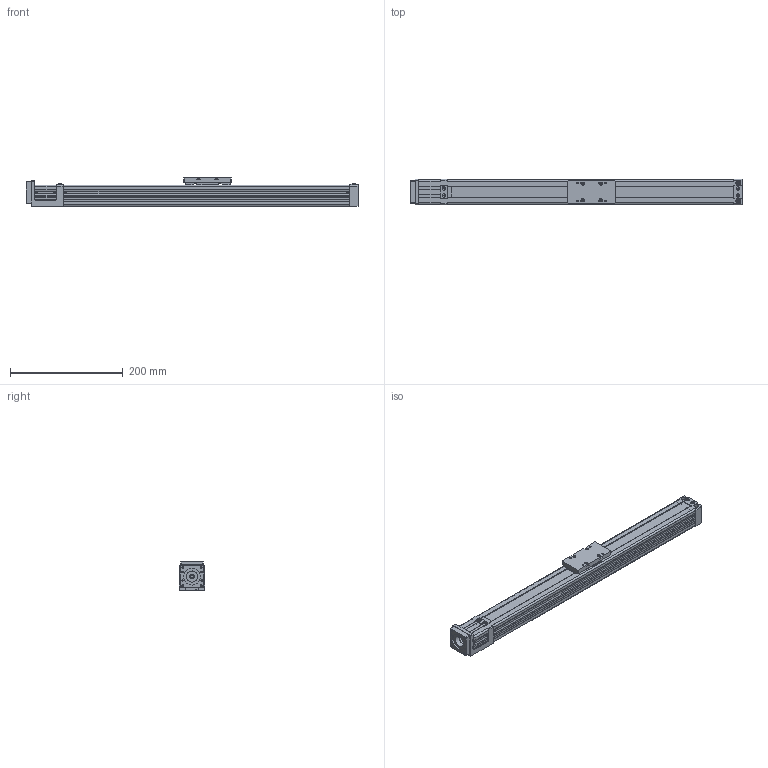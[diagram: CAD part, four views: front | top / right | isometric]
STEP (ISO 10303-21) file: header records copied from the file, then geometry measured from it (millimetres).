
FILE_DESCRIPTION((''),'2;1');
FILE_NAME('D:\製品 (図面)\カタログ用3D\SU部品\SU45×50\ダウンロード用\SU45×50-MB40\SU45×50-400-MB40.stp','2011-06-17T14:39:30',('Tsuchiya'),(''),'Autodesk Inventor 10','Autodesk Inventor 10','');
FILE_SCHEMA(('AUTOMOTIVE_DESIGN { 1 0 10303 214 1 1 1 1 }'));
Length unit declared in the file: millimetre
Products named in the file (3): SU45×50-400-MB40; SB45×50-400-MB40-1(1); SU45×50-T(1)
Assembly tree (2 placements, depth 2):
  SU45×50-400-MB40
    SB45×50-400-MB40-1(1)
    SU45×50-T(1)
Bounding box: 589 x 45 x 50 mm (x, y, z)
Volume: 351220.9 mm3; surface area: 232721.7 mm2
Topology: 2 solids, 2 shells, 683 faces, 1832 edges, 1208 vertices
Faces by surface type: plane 515, cylinder 84, bspline 53, torus 18, cone 13
Full cylindrical faces by diameter (mm): 2.459 x4, 3.242 x8, 3.4 x4, 4.5 x4, 5 x4, 6 x5, 7 x6, 8 x7, 10 x1, 20 x2, 30 x2
Entity records: 21079 total; most frequent: CARTESIAN_POINT 4621, ORIENTED_EDGE 3364, DIRECTION 3150, EDGE_CURVE 1682, VECTOR 1320, LINE 1320, VERTEX_POINT 1168, EDGE_LOOP 918
